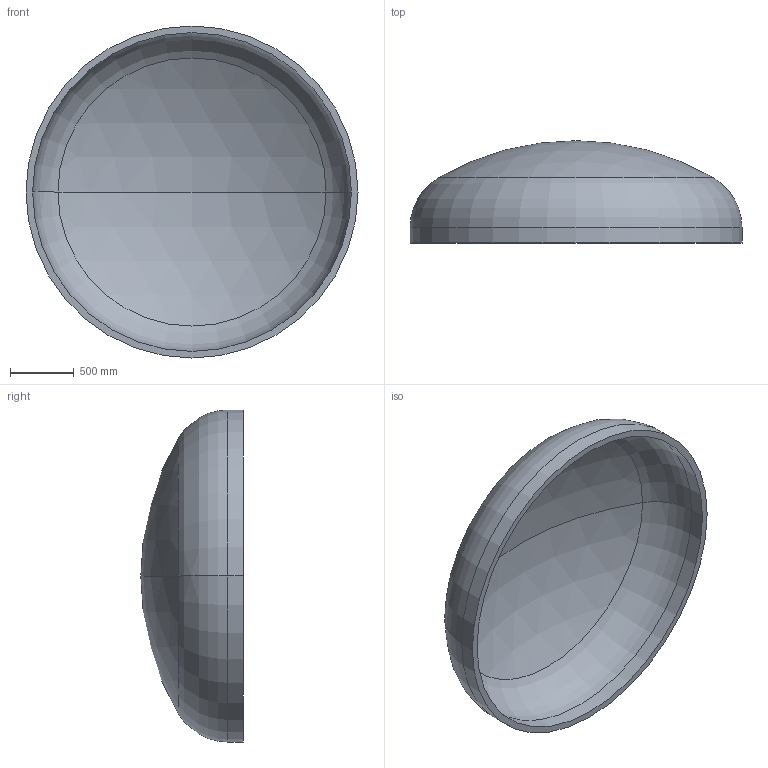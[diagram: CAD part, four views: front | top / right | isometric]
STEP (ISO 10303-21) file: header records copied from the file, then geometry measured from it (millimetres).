
FILE_DESCRIPTION (( 'STEP AP203' ), '1' );
FILE_NAME ('DIN 28013 Korbbogenform_-_Boden DIN 28013 - 2600 x 120 - I - s=52.step', '2016-07-01T16:16:41', ( '' ), ( '' ), 'SwSTEP 2.0', 'SolidWorks 2013', '' );
FILE_SCHEMA (( 'CONFIG_CONTROL_DESIGN' ));
Length unit declared in the file: millimetre
Products named in the file (1): DIN 28013 Korbbogenform_-_Boden DIN 28013 - 2600 x 120 - I - s=52
Bounding box: 2600 x 801.73 x 2600 mm (x, y, z)
Volume: 422310643.7 mm3; surface area: 16664623.4 mm2
Topology: 1 solids, 1 shells, 13 faces, 24 edges, 14 vertices
Faces by surface type: torus 4, cylinder 4, sphere 4, plane 1
Entity records: 407 total; most frequent: DIRECTION 72, CARTESIAN_POINT 52, ORIENTED_EDGE 48, AXIS2_PLACEMENT_3D 34, EDGE_CURVE 24, CIRCLE 20, EDGE_LOOP 14, VERTEX_POINT 14
